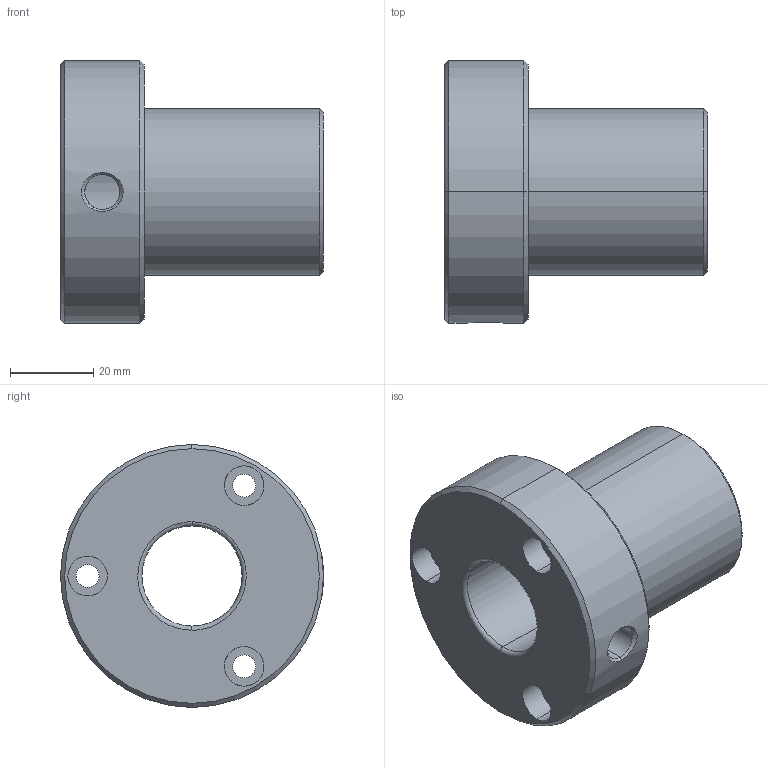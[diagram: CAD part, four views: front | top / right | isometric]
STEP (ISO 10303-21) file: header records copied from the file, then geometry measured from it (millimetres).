
FILE_DESCRIPTION(('CATIA V5 STEP Exchange'),'2;1');
FILE_NAME('C:\Users\Utente\Desktop\IO LAVORO\3D X SITO CF\X SITO\345-346\345-24.stp','2020-12-25T21:18:19+00:00',('none'),('none'),'CATIA Version 5 Release 20 GA (IN-10)','CATIA V5 STEP AP203','none');
FILE_SCHEMA(('CONFIG_CONTROL_DESIGN'));
Length unit declared in the file: millimetre
Products named in the file (1): 345-24
Bounding box: 63 x 63 x 63 mm (x, y, z)
Volume: 83403.9 mm3; surface area: 20684.5 mm2
Topology: 1 solids, 1 shells, 39 faces, 159 edges, 127 vertices
Faces by surface type: cylinder 22, cone 8, plane 7, torus 2
Entity records: 2023 total; most frequent: CARTESIAN_POINT 640, ORIENTED_EDGE 318, DIRECTION 212, EDGE_CURVE 159, AXIS2_PLACEMENT_3D 144, VERTEX_POINT 127, CIRCLE 104, EDGE_LOOP 54
